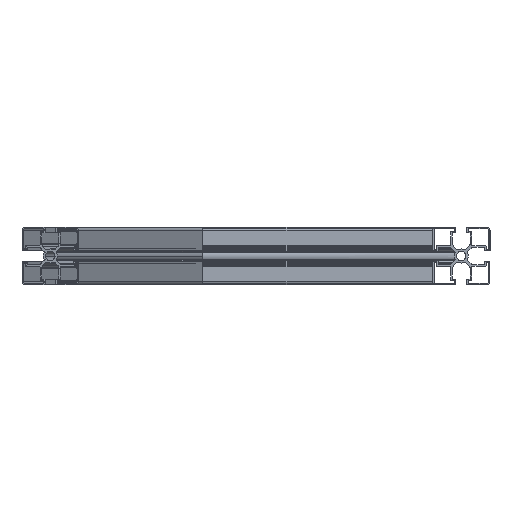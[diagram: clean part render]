
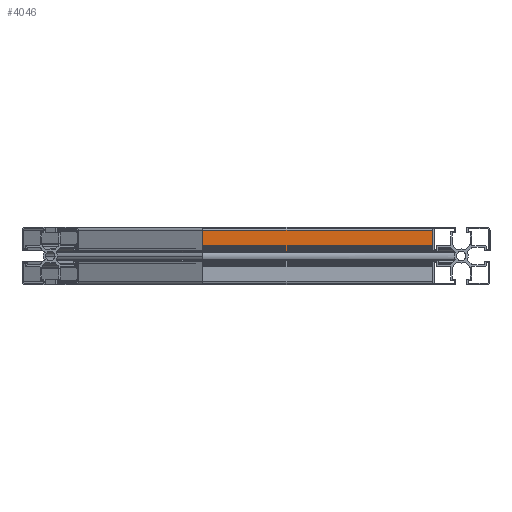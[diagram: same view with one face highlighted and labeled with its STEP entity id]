
A CAD part, left-side view. The second image highlights one B-rep face of the part: STEP entity #4046.
In plain terms, the highlighted planar face has unit normal (-1, 0, 0).
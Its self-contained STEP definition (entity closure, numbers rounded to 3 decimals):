
#1617 = EDGE_CURVE ( 'NONE', #4329, #4242, #13189, .T. ) ;
#1637 = EDGE_CURVE ( 'NONE', #3422, #4242, #13217, .T. ) ;
#1655 = EDGE_CURVE ( 'NONE', #3354, #4329, #13228, .T. ) ;
#1685 = EDGE_CURVE ( 'NONE', #3422, #3354, #13263, .T. ) ;
#2371 = VECTOR ( 'NONE', #10534, 1000. ) ;
#2392 = VECTOR ( 'NONE', #10582, 1000. ) ;
#2415 = VECTOR ( 'NONE', #10632, 1000. ) ;
#2451 = VECTOR ( 'NONE', #10714, 1000. ) ;
#2792 = AXIS2_PLACEMENT_3D ( 'NONE', #8502, #8503, #8504 ) ;
#3354 = VERTEX_POINT ( 'NONE', #10996 ) ;
#3422 = VERTEX_POINT ( 'NONE', #11064 ) ;
#4046 = ADVANCED_FACE ( 'NONE', ( #5117 ), #8501, .F. ) ;
#4242 = VERTEX_POINT ( 'NONE', #6506 ) ;
#4329 = VERTEX_POINT ( 'NONE', #6600 ) ;
#5117 = FACE_OUTER_BOUND ( 'NONE', #9313, .T. ) ;
#6029 = ORIENTED_EDGE ( 'NONE', *, *, #1685, .F. ) ;
#6037 = ORIENTED_EDGE ( 'NONE', *, *, #1637, .T. ) ;
#6045 = ORIENTED_EDGE ( 'NONE', *, *, #1617, .F. ) ;
#6055 = ORIENTED_EDGE ( 'NONE', *, *, #1655, .F. ) ;
#6506 = CARTESIAN_POINT ( 'NONE',  ( 170., 22.5, 4.151 ) ) ;
#6600 = CARTESIAN_POINT ( 'NONE',  ( 170., 22.5, 20. ) ) ;
#8501 = PLANE ( 'NONE',  #2792 ) ;
#8502 = CARTESIAN_POINT ( 'NONE',  ( 170., 202.5, 4.151 ) ) ;
#8503 = DIRECTION ( 'NONE',  ( 1., 0., 0. ) ) ;
#8504 = DIRECTION ( 'NONE',  ( 0., 0., -1. ) ) ;
#9313 = EDGE_LOOP ( 'NONE', ( #6045, #6055, #6029, #6037 ) ) ;
#10533 = CARTESIAN_POINT ( 'NONE',  ( 170., 22.5, 4.151 ) ) ;
#10534 = DIRECTION ( 'NONE',  ( 0., 0., -1. ) ) ;
#10581 = CARTESIAN_POINT ( 'NONE',  ( 170., 202.5, 4.151 ) ) ;
#10582 = DIRECTION ( 'NONE',  ( 0., -1., 0. ) ) ;
#10631 = CARTESIAN_POINT ( 'NONE',  ( 170., 202.5, 20. ) ) ;
#10632 = DIRECTION ( 'NONE',  ( 0., -1., 0. ) ) ;
#10713 = CARTESIAN_POINT ( 'NONE',  ( 170., 202.5, 4.151 ) ) ;
#10714 = DIRECTION ( 'NONE',  ( 0., 0., 1. ) ) ;
#10996 = CARTESIAN_POINT ( 'NONE',  ( 170., 202.5, 20. ) ) ;
#11064 = CARTESIAN_POINT ( 'NONE',  ( 170., 202.5, 4.151 ) ) ;
#13189 = LINE ( 'NONE', #10533, #2371 ) ;
#13217 = LINE ( 'NONE', #10581, #2392 ) ;
#13228 = LINE ( 'NONE', #10631, #2415 ) ;
#13263 = LINE ( 'NONE', #10713, #2451 ) ;
